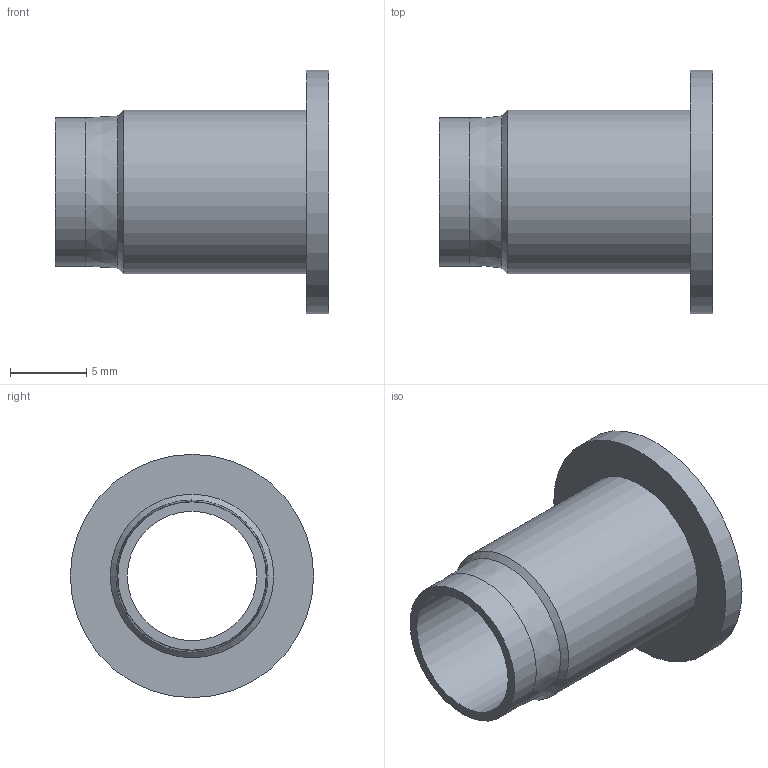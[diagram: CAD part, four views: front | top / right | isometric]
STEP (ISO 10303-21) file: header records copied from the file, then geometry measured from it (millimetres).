
FILE_DESCRIPTION (( 'STEP AP214' ), '1' );
FILE_NAME ('L16103.step', '2024-12-03T16:21:16', ( '' ), ( '' ), 'SwSTEP 2.0', 'SolidWorks 2023', '' );
FILE_SCHEMA (( 'AUTOMOTIVE_DESIGN' ));
Length unit declared in the file: millimetre
Products named in the file (1): L16103
Bounding box: 18 x 16 x 16 mm (x, y, z)
Volume: 713.1 mm3; surface area: 1378.4 mm2
Topology: 1 solids, 1 shells, 9 faces, 16 edges, 10 vertices
Faces by surface type: cylinder 4, plane 3, cone 2
Full cylindrical faces by diameter (mm): 8.5 x1, 9.75 x1, 10.75 x1, 16 x1
Entity records: 211 total; most frequent: DIRECTION 38, CARTESIAN_POINT 28, AXIS2_PLACEMENT_3D 19, EDGE_LOOP 18, ORIENTED_EDGE 18, FACE_OUTER_BOUND 13, VERTEX_POINT 9, CIRCLE 9
